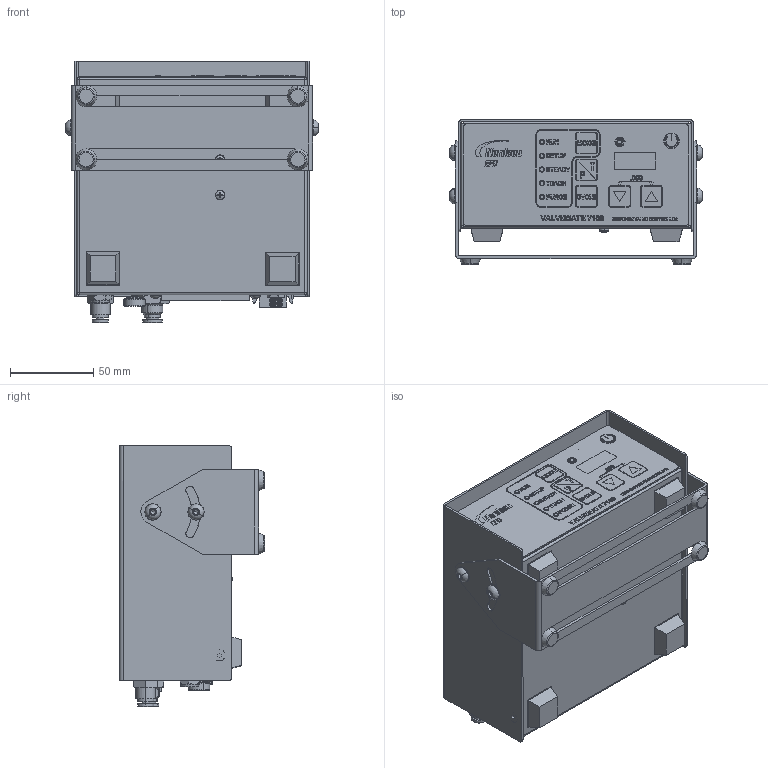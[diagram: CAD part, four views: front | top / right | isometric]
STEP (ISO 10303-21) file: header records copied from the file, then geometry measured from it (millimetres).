
FILE_DESCRIPTION (( 'STEP AP214' ), '1' );
FILE_NAME ('NORDSONEFD-7015340 CONTROLLER 7100 DISPENSE VALVE.STEP', '2018-12-17T18:49:53', ( '' ), ( '' ), 'SwSTEP 2.0', 'SolidWorks 2018', '' );
FILE_SCHEMA (( 'AUTOMOTIVE_DESIGN' ));
Length unit declared in the file: inch
Products named in the file (1): NORDSONEFD-7015340 CONTROLLER 7100 DISPENSE VALVE
Bounding box: 151.74 x 87.09 x 156.94 mm (x, y, z)
Volume: 1207161.6 mm3; surface area: 202069.2 mm2
Topology: 1 solids, 1 shells, 5650 faces, 14861 edges, 9708 vertices
Faces by surface type: plane 3518, bspline 1317, cylinder 515, cone 200, torus 94, sphere 6
Entity records: 249475 total; most frequent: CARTESIAN_POINT 104542, ORIENTED_EDGE 29694, DIRECTION 22288, EDGE_CURVE 14847, VECTOR 10320, LINE 10320, VERTEX_POINT 9706, EDGE_LOOP 6241
